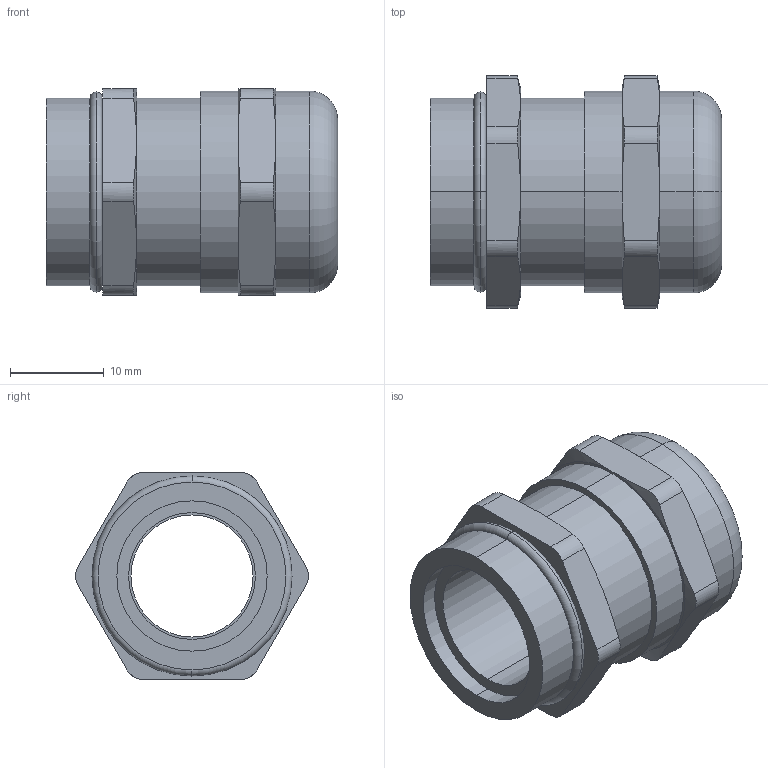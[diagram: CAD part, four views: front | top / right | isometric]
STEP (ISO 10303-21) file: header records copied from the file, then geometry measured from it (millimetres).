
FILE_DESCRIPTION (( 'STEP AP214' ), '1' );
FILE_NAME ('0000003205.STEP', '2015-11-27T10:19:06', ( 'HP' ), ( 'Hewlett-Packard Company' ), 'SwSTEP 2.0', 'SolidWorks 2014', '' );
FILE_SCHEMA (( 'AUTOMOTIVE_DESIGN' ));
Length unit declared in the file: millimetre
Products named in the file (1): 0000003205
Bounding box: 31 x 24.78 x 22 mm (x, y, z)
Volume: 5812.2 mm3; surface area: 8970 mm2
Topology: 5 solids, 5 shells, 168 faces, 432 edges, 277 vertices
Faces by surface type: plane 70, cylinder 52, torus 26, cone 20
Entity records: 6063 total; most frequent: CARTESIAN_POINT 1302, ORIENTED_EDGE 864, DIRECTION 857, EDGE_CURVE 432, AXIS2_PLACEMENT_3D 340, VERTEX_POINT 277, EDGE_LOOP 181, LINE 177
